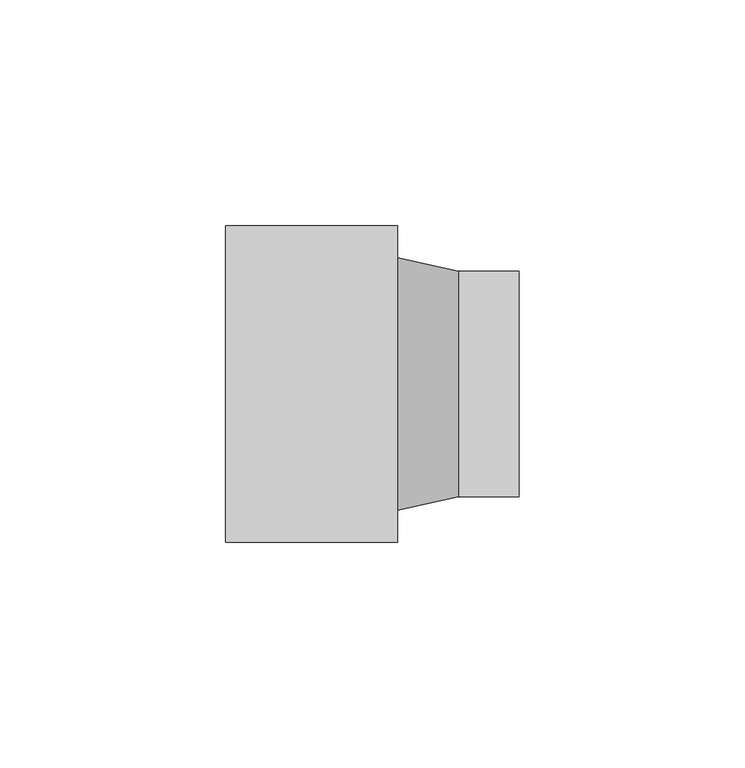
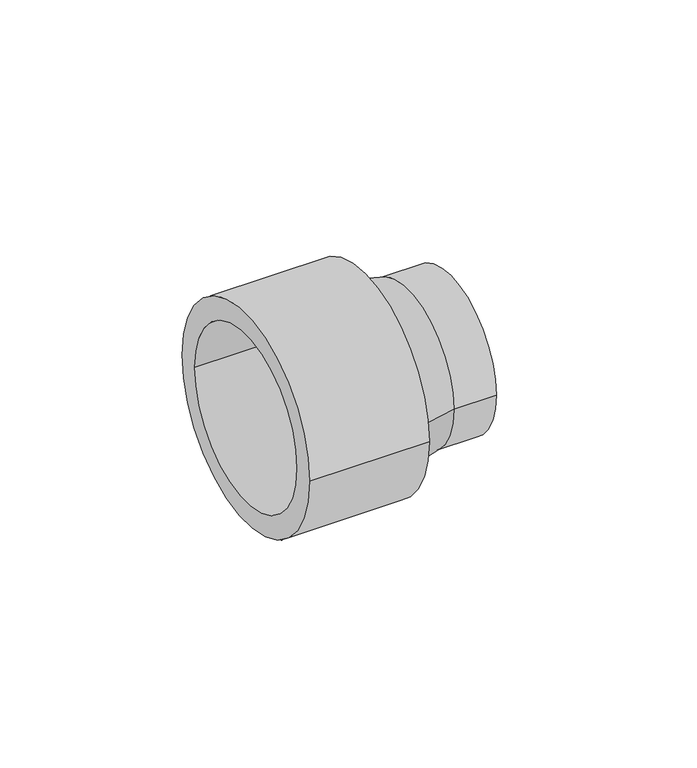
"""IFC4 building model written with IfcOpenShell, lengths in millimetres: pipe fitting geometry."""

from ifc_helpers import new_model, si_unit, point, frame, origin, origin_2d, place, context, project, spatial, polyline, circle_curve, trimmed, segment, composite_curve, outline, extrude, source, transform, mapped, element, save
from ifc_brep_helpers import plane_surface, revolved_surface, advanced_brep


def pipe_fitting_2152e1c3(model_context):
    return source(origin(), model_context, "Body", "SolidModel", [
        advanced_brep(
        [(0.0, -28.0, 0.0), (0.0, 28.0, 0.0), (13.5, -25.0, 0.0), (13.5, 25.0, 0.0)],
        [
            (0, 1, circle_curve(frame((0.0, 0.0, 0.0), z_axis=(-1.0, 0.0, 0.0), x_axis=(0.0, -1.0, 0.0)), 28.0)),
            (1, 0, circle_curve(frame((0.0, 0.0, 0.0), z_axis=(-1.0, 0.0, 0.0), x_axis=(0.0, 1.0, 0.0)), 28.0)),
            (2, 3, circle_curve(frame((13.5, 0.0, 0.0), z_axis=(1.0, 0.0, 0.0), x_axis=(0.0, 1.0, 0.0)), 25.0)),
            (3, 2, circle_curve(frame((13.5, 0.0, 0.0), z_axis=(1.0, 0.0, 0.0), x_axis=(0.0, -1.0, 0.0)), 25.0)),
            (2, 0),
            (1, 3),
        ],
        [
            plane_surface(frame((0.0, 0.0, 0.0), z_axis=(-1.0, 0.0, 0.0), x_axis=(0.0, 0.0, -1.0))),
            plane_surface(frame((13.5, 0.0, 0.0), z_axis=(1.0, 0.0, 0.0), x_axis=(0.0, 0.0, -1.0))),
            revolved_surface(polyline([(13.5, -25.0, 0.0), (0.0, -28.0, 0.0)]), (126.0, 0.0, 0.0), (-1.0, 0.0, 0.0)),
            revolved_surface(polyline([(13.5, 25.0, 0.0), (0.0, 28.0, 0.0)]), (126.0, 0.0, 0.0), (-1.0, 0.0, 0.0)),
        ],
        [
            (0, [[1, 2]]),
            (1, [[3, 4]]),
            (2, [[-3, 5, -2, 6]]),
            (3, [[-4, -6, -1, -5]]),
        ],
    ),
        extrude(outline(composite_curve([segment(trimmed(circle_curve(origin_2d(), 25.0), [point((-25.0, 0.0))], [point((25.0, 0.0))], False, "CARTESIAN"), True, "CONTINUOUS"), segment(trimmed(circle_curve(origin_2d(), 25.0), [point((25.0, 0.0))], [point((-25.0, 0.0))], False, "CARTESIAN"), True, "CONTINUOUS")], self_intersect=False)), frame((13.5, 0.0, 0.0), z_axis=(1.0, 0.0, 0.0), x_axis=(0.0, 1.0, 0.0)), (0.0, 0.0, 1.0), 13.5),
        extrude(outline(composite_curve([segment(trimmed(circle_curve(origin_2d(), 35.0), [point((-35.0, 0.0))], [point((35.0, 0.0))], False, "CARTESIAN"), True, "CONTINUOUS"), segment(trimmed(circle_curve(origin_2d(), 35.0), [point((35.0, 0.0))], [point((-35.0, 0.0))], False, "CARTESIAN"), True, "CONTINUOUS")], self_intersect=False), holes=[composite_curve([segment(trimmed(circle_curve(origin_2d(), 28.0), [point((-28.0, 0.0))], [point((28.0, 0.0))], True, "CARTESIAN"), True, "CONTINUOUS"), segment(trimmed(circle_curve(origin_2d(), 28.0), [point((28.0, 0.0))], [point((-28.0, 0.0))], True, "CARTESIAN"), True, "CONTINUOUS")], self_intersect=False)]), frame((-38.0, 0.0, 0.0), z_axis=(1.0, 0.0, 0.0), x_axis=(0.0, 1.0, 0.0)), (0.0, 0.0, 1.0), 38.0),
    ])


if __name__ == "__main__":
    model = new_model("IFC4")
    model_context = context("Model", 3, world=origin())
    ifc_project = project(units=[si_unit("LENGTHUNIT", "METRE", prefix="MILLI")], contexts=[model_context])
    site = spatial("IfcSite", under=ifc_project)
    building = spatial("IfcBuilding", under=site)
    placement = place(None, origin())
    pipe_fitting_shape = pipe_fitting_2152e1c3(model_context)
    element("IfcPipeFitting", 1, ObjectType="NLRS_52_PIF_UN_PE overgang met buitendraad en klemkoppeling_geb : DN50-56-R2\" / ø50-56-R2\"", at=placement, inside=building, context=model_context, shape_type="MappedRepresentation", body=[
        mapped(pipe_fitting_shape, transform((0.0, 0.0, 0.0), x_axis=(1.0, 0.0, 0.0), y_axis=(0.0, 1.0, 0.0), z_axis=(0.0, 0.0, 1.0))),
    ])
    save(model, "model.ifc")
